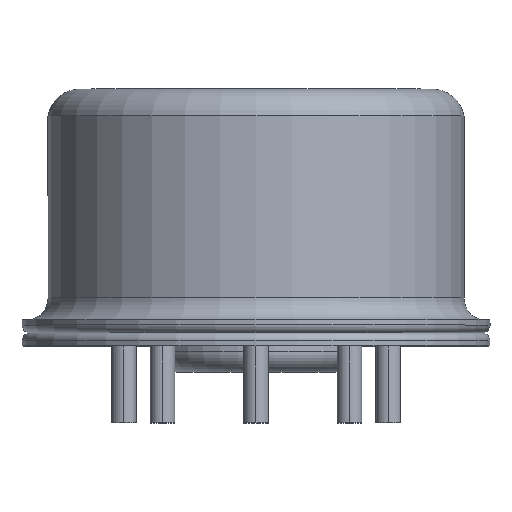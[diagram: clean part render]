
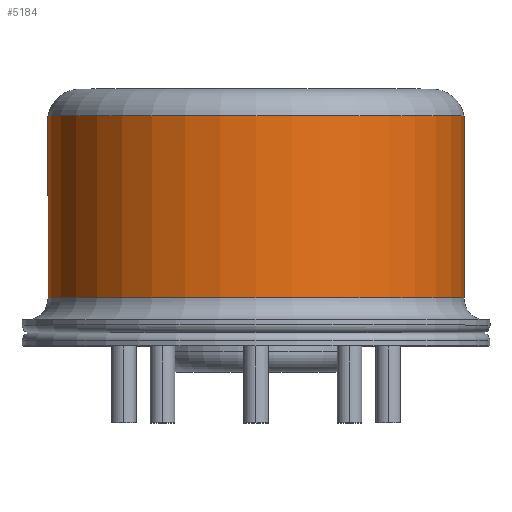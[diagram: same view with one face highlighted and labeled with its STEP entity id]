
A CAD part, top view. The second image highlights one B-rep face of the part: STEP entity #5184.
In plain terms, the highlighted cylindrical face has radius 4 mm (diameter 8 mm), a partial arc.
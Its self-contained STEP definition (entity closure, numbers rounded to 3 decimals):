
#1361 = DIRECTION ( 'NONE',  ( 0., -1., 0. ) ) ;
#1362 = VECTOR ( 'NONE', #1361, 1000. ) ;
#1363 = CARTESIAN_POINT ( 'NONE',  ( 4., 0.5, 0. ) ) ;
#1369 = LINE ( 'NONE', #1363, #1362 ) ;
#1422 = CARTESIAN_POINT ( 'NONE',  ( -4., 4.423, 0. ) ) ;
#1500 = CARTESIAN_POINT ( 'NONE',  ( 4., 0.923, 0. ) ) ;
#1501 = CYLINDRICAL_SURFACE ( 'NONE', #1510, 4. ) ;
#1510 = AXIS2_PLACEMENT_3D ( 'NONE', #1516, #1558, #1557 ) ;
#1516 = CARTESIAN_POINT ( 'NONE',  ( 0., 0.5, 0. ) ) ;
#1526 = FACE_OUTER_BOUND ( 'NONE', #5118, .T. ) ;
#1557 = DIRECTION ( 'NONE',  ( 1., 0., 0. ) ) ;
#1558 = DIRECTION ( 'NONE',  ( 0., -1., 0. ) ) ;
#1567 = AXIS2_PLACEMENT_3D ( 'NONE', #1619, #1618, #1617 ) ;
#1583 = CIRCLE ( 'NONE', #1567, 4. ) ;
#1615 = CARTESIAN_POINT ( 'NONE',  ( -4., 0.923, 0. ) ) ;
#1617 = DIRECTION ( 'NONE',  ( 1., 0., 0. ) ) ;
#1618 = DIRECTION ( 'NONE',  ( 0., -1., 0. ) ) ;
#1619 = CARTESIAN_POINT ( 'NONE',  ( 0., 0.923, 0. ) ) ;
#1661 = CARTESIAN_POINT ( 'NONE',  ( 4., 4.423, 0. ) ) ;
#1680 = DIRECTION ( 'NONE',  ( 0., -1., 0. ) ) ;
#1681 = VECTOR ( 'NONE', #1680, 1000. ) ;
#1682 = CARTESIAN_POINT ( 'NONE',  ( -4., 0.5, 0. ) ) ;
#1683 = LINE ( 'NONE', #1682, #1681 ) ;
#1730 = DIRECTION ( 'NONE',  ( 1., 0., 0. ) ) ;
#1731 = DIRECTION ( 'NONE',  ( 0., -1., 0. ) ) ;
#1732 = CARTESIAN_POINT ( 'NONE',  ( 0., 4.423, 0. ) ) ;
#1733 = AXIS2_PLACEMENT_3D ( 'NONE', #1732, #1731, #1730 ) ;
#1734 = CIRCLE ( 'NONE', #1733, 4. ) ;
#5111 = ORIENTED_EDGE ( 'NONE', *, *, #5229, .T. ) ;
#5118 = EDGE_LOOP ( 'NONE', ( #5160, #5111, #5159, #5188 ) ) ;
#5120 = EDGE_CURVE ( 'NONE', #5234, #5169, #1369, .T. ) ;
#5152 = VERTEX_POINT ( 'NONE', #1422 ) ;
#5159 = ORIENTED_EDGE ( 'NONE', *, *, #5200, .F. ) ;
#5160 = ORIENTED_EDGE ( 'NONE', *, *, #5251, .T. ) ;
#5169 = VERTEX_POINT ( 'NONE', #1500 ) ;
#5184 = ADVANCED_FACE ( 'NONE', ( #1526 ), #1501, .T. ) ;
#5188 = ORIENTED_EDGE ( 'NONE', *, *, #5120, .F. ) ;
#5200 = EDGE_CURVE ( 'NONE', #5169, #5207, #1583, .T. ) ;
#5207 = VERTEX_POINT ( 'NONE', #1615 ) ;
#5229 = EDGE_CURVE ( 'NONE', #5152, #5207, #1683, .T. ) ;
#5234 = VERTEX_POINT ( 'NONE', #1661 ) ;
#5251 = EDGE_CURVE ( 'NONE', #5234, #5152, #1734, .T. ) ;
